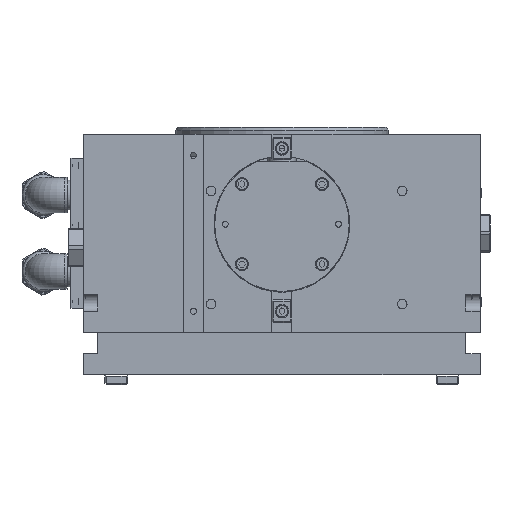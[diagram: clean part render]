
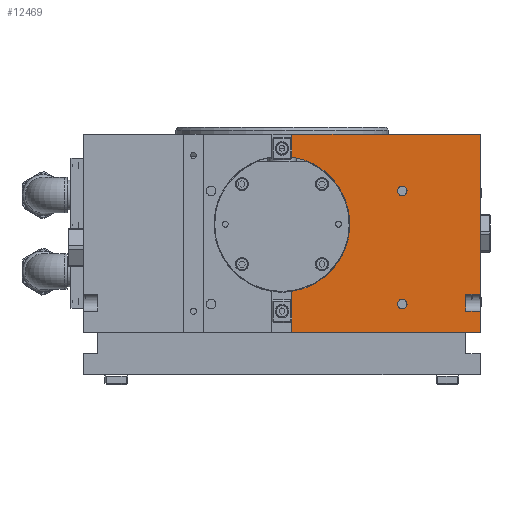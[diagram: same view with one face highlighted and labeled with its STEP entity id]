
A CAD part, front view. The second image highlights one B-rep face of the part: STEP entity #12469.
In plain terms, the highlighted planar face has unit normal (0, -1, 0).
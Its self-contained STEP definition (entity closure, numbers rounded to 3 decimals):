
#219 = ORIENTED_EDGE ( 'NONE', *, *, #6020, .F. ) ;
#604 = DIRECTION ( 'NONE',  ( 0., 0., 1. ) ) ;
#1191 = ORIENTED_EDGE ( 'NONE', *, *, #11642, .F. ) ;
#1413 = AXIS2_PLACEMENT_3D ( 'NONE', #16243, #4068, #11156 ) ;
#1539 = VECTOR ( 'NONE', #24464, 1000. ) ;
#1997 = CARTESIAN_POINT ( 'NONE',  ( 130., -120., 15. ) ) ;
#2396 = DIRECTION ( 'NONE',  ( 0., 0., 1. ) ) ;
#2410 = CARTESIAN_POINT ( 'NONE',  ( 140., -120., 1. ) ) ;
#2546 = LINE ( 'NONE', #19341, #25579 ) ;
#2777 = CARTESIAN_POINT ( 'NONE',  ( 7., -120., 0. ) ) ;
#2989 = ORIENTED_EDGE ( 'NONE', *, *, #7449, .F. ) ;
#3057 = EDGE_CURVE ( 'NONE', #24917, #3841, #21596, .T. ) ;
#3415 = CARTESIAN_POINT ( 'NONE',  ( 7., -120., 29.013 ) ) ;
#3468 = CARTESIAN_POINT ( 'NONE',  ( -140., -120., 0. ) ) ;
#3759 = AXIS2_PLACEMENT_3D ( 'NONE', #26232, #18996, #13771 ) ;
#3841 = VERTEX_POINT ( 'NONE', #29743 ) ;
#4068 = DIRECTION ( 'NONE',  ( 0., -1., 0. ) ) ;
#4370 = CARTESIAN_POINT ( 'NONE',  ( -140., -120., 140. ) ) ;
#4618 = VERTEX_POINT ( 'NONE', #18944 ) ;
#4752 = EDGE_CURVE ( 'NONE', #9502, #10002, #14359, .T. ) ;
#5104 = VERTEX_POINT ( 'NONE', #1997 ) ;
#5597 = ORIENTED_EDGE ( 'NONE', *, *, #20360, .F. ) ;
#5845 = CARTESIAN_POINT ( 'NONE',  ( -140., -120., 140. ) ) ;
#5920 = DIRECTION ( 'NONE',  ( 0., 0., -1. ) ) ;
#6001 = DIRECTION ( 'NONE',  ( 0., -1., 0. ) ) ;
#6020 = EDGE_CURVE ( 'NONE', #28496, #24917, #6542, .T. ) ;
#6374 = EDGE_CURVE ( 'NONE', #6855, #10002, #26039, .T. ) ;
#6542 = LINE ( 'NONE', #15955, #7479 ) ;
#6789 = CARTESIAN_POINT ( 'NONE',  ( 130., -120., 15. ) ) ;
#6855 = VERTEX_POINT ( 'NONE', #9525 ) ;
#7149 = CARTESIAN_POINT ( 'NONE',  ( 140., -120., 27. ) ) ;
#7449 = EDGE_CURVE ( 'NONE', #5104, #13778, #23139, .T. ) ;
#7479 = VECTOR ( 'NONE', #25360, 1000. ) ;
#7489 = CARTESIAN_POINT ( 'NONE',  ( 139., -120., 140. ) ) ;
#7668 = EDGE_CURVE ( 'NONE', #3841, #21048, #28665, .T. ) ;
#7707 = CARTESIAN_POINT ( 'NONE',  ( 139., -120., 0. ) ) ;
#7805 = EDGE_CURVE ( 'NONE', #4618, #4618, #19902, .T. ) ;
#8004 = DIRECTION ( 'NONE',  ( -1., 0., 0. ) ) ;
#8152 = PLANE ( 'NONE',  #16178 ) ;
#8692 = LINE ( 'NONE', #4370, #1539 ) ;
#9258 = DIRECTION ( 'NONE',  ( 1., 0., 0. ) ) ;
#9470 = EDGE_LOOP ( 'NONE', ( #28582 ) ) ;
#9502 = VERTEX_POINT ( 'NONE', #11055 ) ;
#9525 = CARTESIAN_POINT ( 'NONE',  ( 130., -120., 27. ) ) ;
#9819 = EDGE_CURVE ( 'NONE', #28496, #25392, #26742, .T. ) ;
#10002 = VERTEX_POINT ( 'NONE', #7149 ) ;
#10620 = DIRECTION ( 'NONE',  ( 0., 1., 0. ) ) ;
#11055 = CARTESIAN_POINT ( 'NONE',  ( 140., -120., 139. ) ) ;
#11156 = DIRECTION ( 'NONE',  ( 0., 0., -1. ) ) ;
#11642 = EDGE_CURVE ( 'NONE', #13778, #12895, #13326, .T. ) ;
#11836 = CARTESIAN_POINT ( 'NONE',  ( 7., -120., 140. ) ) ;
#12469 = ADVANCED_FACE ( 'NONE', ( #15095, #17551, #29274 ), #8152, .F. ) ;
#12895 = VERTEX_POINT ( 'NONE', #13208 ) ;
#13080 = VERTEX_POINT ( 'NONE', #25830 ) ;
#13086 = EDGE_CURVE ( 'NONE', #5104, #6855, #2546, .T. ) ;
#13208 = CARTESIAN_POINT ( 'NONE',  ( 140., -120., 1. ) ) ;
#13224 = EDGE_LOOP ( 'NONE', ( #28049, #23552, #13482, #29029, #20546, #219, #16553, #23245, #1191, #2989, #24125, #28419 ) ) ;
#13326 = LINE ( 'NONE', #20094, #14202 ) ;
#13482 = ORIENTED_EDGE ( 'NONE', *, *, #25867, .F. ) ;
#13771 = DIRECTION ( 'NONE',  ( 0., 0., -1. ) ) ;
#13778 = VERTEX_POINT ( 'NONE', #20788 ) ;
#13833 = VECTOR ( 'NONE', #16969, 1000. ) ;
#14033 = CARTESIAN_POINT ( 'NONE',  ( 130., -120., 27. ) ) ;
#14202 = VECTOR ( 'NONE', #5920, 1000. ) ;
#14253 = CARTESIAN_POINT ( 'NONE',  ( 85., -120., 96.6 ) ) ;
#14359 = LINE ( 'NONE', #26067, #13833 ) ;
#14438 = VECTOR ( 'NONE', #26146, 1000. ) ;
#15095 = FACE_BOUND ( 'NONE', #9470, .T. ) ;
#15423 = VECTOR ( 'NONE', #16488, 1000. ) ;
#15955 = CARTESIAN_POINT ( 'NONE',  ( 7., -120., 0. ) ) ;
#15986 = DIRECTION ( 'NONE',  ( 0.707, 0., 0.707 ) ) ;
#16178 = AXIS2_PLACEMENT_3D ( 'NONE', #5845, #10620, #8004 ) ;
#16243 = CARTESIAN_POINT ( 'NONE',  ( 0., -120., 76.5 ) ) ;
#16488 = DIRECTION ( 'NONE',  ( 1., 0., 0. ) ) ;
#16553 = ORIENTED_EDGE ( 'NONE', *, *, #9819, .T. ) ;
#16556 = VERTEX_POINT ( 'NONE', #14253 ) ;
#16969 = DIRECTION ( 'NONE',  ( 0., 0., -1. ) ) ;
#17105 = DIRECTION ( 'NONE',  ( 0., 0., -1. ) ) ;
#17551 = FACE_BOUND ( 'NONE', #22922, .T. ) ;
#18944 = CARTESIAN_POINT ( 'NONE',  ( 85., -120., 16.6 ) ) ;
#18996 = DIRECTION ( 'NONE',  ( 0., -1., 0. ) ) ;
#19341 = CARTESIAN_POINT ( 'NONE',  ( 130., -120., 27. ) ) ;
#19355 = LINE ( 'NONE', #7489, #14438 ) ;
#19902 = CIRCLE ( 'NONE', #23366, 3.4 ) ;
#20094 = CARTESIAN_POINT ( 'NONE',  ( 140., -120., 140. ) ) ;
#20360 = EDGE_CURVE ( 'NONE', #16556, #16556, #21955, .T. ) ;
#20458 = LINE ( 'NONE', #2410, #22762 ) ;
#20546 = ORIENTED_EDGE ( 'NONE', *, *, #3057, .F. ) ;
#20788 = CARTESIAN_POINT ( 'NONE',  ( 140., -120., 15. ) ) ;
#21048 = VERTEX_POINT ( 'NONE', #11836 ) ;
#21596 = CIRCLE ( 'NONE', #1413, 48. ) ;
#21955 = CIRCLE ( 'NONE', #3759, 3.4 ) ;
#22762 = VECTOR ( 'NONE', #15986, 1000. ) ;
#22922 = EDGE_LOOP ( 'NONE', ( #5597 ) ) ;
#23139 = LINE ( 'NONE', #6789, #29747 ) ;
#23245 = ORIENTED_EDGE ( 'NONE', *, *, #26962, .T. ) ;
#23366 = AXIS2_PLACEMENT_3D ( 'NONE', #29277, #6001, #17105 ) ;
#23552 = ORIENTED_EDGE ( 'NONE', *, *, #27198, .T. ) ;
#24125 = ORIENTED_EDGE ( 'NONE', *, *, #13086, .T. ) ;
#24464 = DIRECTION ( 'NONE',  ( 1., 0., 0. ) ) ;
#24917 = VERTEX_POINT ( 'NONE', #3415 ) ;
#25224 = VECTOR ( 'NONE', #27050, 1000. ) ;
#25326 = VECTOR ( 'NONE', #604, 1000. ) ;
#25360 = DIRECTION ( 'NONE',  ( 0., 0., 1. ) ) ;
#25392 = VERTEX_POINT ( 'NONE', #7707 ) ;
#25579 = VECTOR ( 'NONE', #2396, 1000. ) ;
#25830 = CARTESIAN_POINT ( 'NONE',  ( 139., -120., 140. ) ) ;
#25867 = EDGE_CURVE ( 'NONE', #21048, #13080, #8692, .T. ) ;
#26039 = LINE ( 'NONE', #14033, #15423 ) ;
#26067 = CARTESIAN_POINT ( 'NONE',  ( 140., -120., 140. ) ) ;
#26146 = DIRECTION ( 'NONE',  ( -0.707, 0., 0.707 ) ) ;
#26232 = CARTESIAN_POINT ( 'NONE',  ( 85., -120., 100. ) ) ;
#26742 = LINE ( 'NONE', #3468, #25224 ) ;
#26962 = EDGE_CURVE ( 'NONE', #25392, #12895, #20458, .T. ) ;
#27050 = DIRECTION ( 'NONE',  ( 1., 0., 0. ) ) ;
#27198 = EDGE_CURVE ( 'NONE', #9502, #13080, #19355, .T. ) ;
#28042 = CARTESIAN_POINT ( 'NONE',  ( 7., -120., 0. ) ) ;
#28049 = ORIENTED_EDGE ( 'NONE', *, *, #4752, .F. ) ;
#28419 = ORIENTED_EDGE ( 'NONE', *, *, #6374, .T. ) ;
#28496 = VERTEX_POINT ( 'NONE', #28042 ) ;
#28582 = ORIENTED_EDGE ( 'NONE', *, *, #7805, .F. ) ;
#28665 = LINE ( 'NONE', #2777, #25326 ) ;
#29029 = ORIENTED_EDGE ( 'NONE', *, *, #7668, .F. ) ;
#29274 = FACE_OUTER_BOUND ( 'NONE', #13224, .T. ) ;
#29277 = CARTESIAN_POINT ( 'NONE',  ( 85., -120., 20. ) ) ;
#29743 = CARTESIAN_POINT ( 'NONE',  ( 7., -120., 123.987 ) ) ;
#29747 = VECTOR ( 'NONE', #9258, 1000. ) ;
